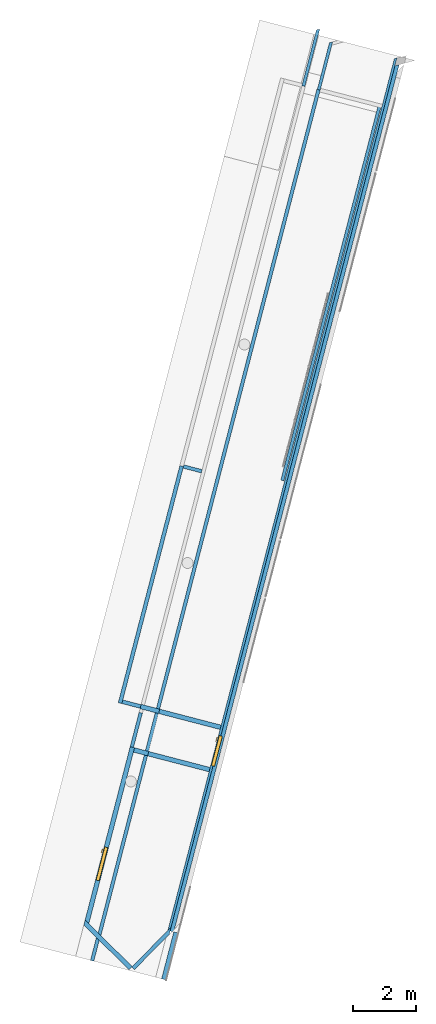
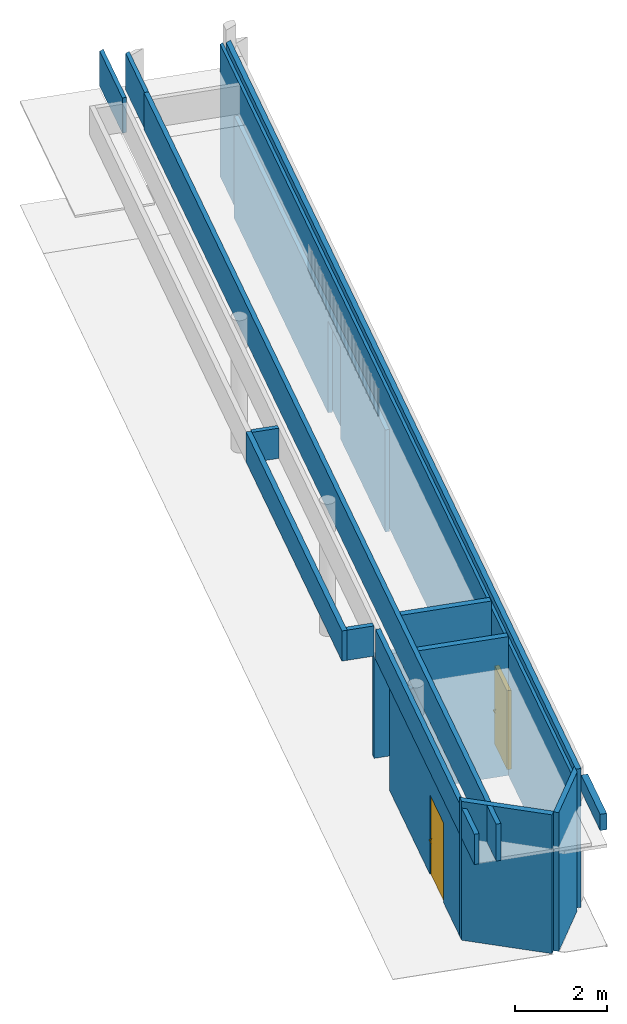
# One storey, part 1 of 9: 17 walls, 2 doors, 6 openings.
"""IFC2X3 building model written with IfcOpenShell, lengths in millimetres."""

from ifc_helpers import new_model, entity, si_unit, converted_unit, derived_unit, direction, frame, frame_2d, origin, origin_with_axes, origin_2d_with_axis, place, context, subcontext, project, spatial, polyline, rectangle, outline, extrude, faceted_brep, source, transform, mapped, material, material_list, layer, layer_set, layer_usage, type_object, element, fill, save


model = new_model("IFC2X3")

# Units and contexts
plan_context = context("Plan", 3, precision=1e-05, world=origin_with_axes())
model_context = context("Model", 3, precision=0.01, world=origin(), true_north=direction((6.12323399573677e-17, 1.0)))
body_context = subcontext(model_context, "Body", "Model", "MODEL_VIEW")
ifc_project = project(units=[converted_unit("PLANEANGLEUNIT", "DEGREE", entity("IfcPositiveLengthMeasure", 0.0174532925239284), si_unit("PLANEANGLEUNIT", "RADIAN"), dimensions=[0, 0, 0, 0, 0, 0, 0]), si_unit("AREAUNIT", "SQUARE_METRE"), si_unit("LENGTHUNIT", "METRE", prefix="MILLI"), si_unit("MASSUNIT", "GRAM", prefix="KILO"), si_unit("POWERUNIT", "WATT"), si_unit("PRESSUREUNIT", "PASCAL", prefix="KILO"), si_unit("FORCEUNIT", "NEWTON", prefix="KILO"), si_unit("ELECTRICVOLTAGEUNIT", "VOLT"), si_unit("ELECTRICCURRENTUNIT", "AMPERE"), si_unit("THERMODYNAMICTEMPERATUREUNIT", "DEGREE_CELSIUS"), si_unit("TIMEUNIT", "SECOND"), si_unit("VOLUMEUNIT", "CUBIC_METRE"), derived_unit("LINEARVELOCITYUNIT", [(si_unit("LENGTHUNIT", "METRE"), 1), (si_unit("TIMEUNIT", "SECOND"), -1)]), derived_unit("VOLUMETRICFLOWRATEUNIT", [(si_unit("VOLUMEUNIT", "CUBIC_METRE"), 1), (si_unit("TIMEUNIT", "SECOND"), -1)]), derived_unit("THERMALTRANSMITTANCEUNIT", [(si_unit("POWERUNIT", "WATT"), 1), (si_unit("THERMODYNAMICTEMPERATUREUNIT", "KELVIN"), -1), (si_unit("AREAUNIT", "SQUARE_METRE"), -1)]), derived_unit("SOUNDPRESSUREUNIT", [(si_unit("PRESSUREUNIT", "PASCAL"), 1)])], contexts=[model_context, plan_context])

# Site, building, storey
site_placement = place(None, frame((0.0, -2.21771188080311e-09, 0.0), z_axis=(0.0, 0.0, 1.0), x_axis=(0.266093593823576, -0.963947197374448, 0.0)))
site = spatial("IfcSite", under=ifc_project, at=site_placement, Name="ENZV", CompositionType="ELEMENT")
building_placement = place(site_placement, origin_with_axes())
building = spatial("IfcBuilding", under=site, at=building_placement, Name="ZV001", CompositionType="ELEMENT")
storey_placement = place(building_placement, frame((0.0, 0.0, 5100.0), z_axis=(0.0, 0.0, 1.0), x_axis=(1.0, 0.0, 0.0)))
storey = spatial("IfcBuildingStorey", under=building, at=storey_placement, Name="H01", CompositionType="ELEMENT", Elevation=5100.0)

# Wall
ifc_material_1 = material(Name="Vegg")
ifc_layer_1 = layer(ifc_material_1, 150.0)
ifc_layer_set_1 = layer_set([ifc_layer_1], Name="Basic Wall:Standard - 150mm")
wall_type_1 = type_object("IfcWallType", Name="Basic Wall:Standard - 150mm", PredefinedType="STANDARD", material=ifc_layer_set_1)
wall_1_placement = place(storey_placement, frame((-154005.015953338, 377796.146069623, 3070.0), z_axis=(0.0, 0.0, 1.0), x_axis=(-0.866025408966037, 0.499999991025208, 0.0)))
element("IfcWall", 1, at=wall_1_placement, inside=storey, type_object=wall_type_1, Name="Basic Wall:Standard - 150mm", ObjectType="Basic Wall:Standard - 150mm", context=body_context, shape_type="Brep", body=[
    faceted_brep([(551.273351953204, -75.0, 0.0), (551.273351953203, -75.0, 430.0), (2096.35044687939, -75.0, 430.0), (2096.35044687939, -75.0, 0.0), (2096.35044687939, 75.0, 430.0), (2096.35044687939, 75.0, 0.0), (551.264154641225, 75.0, 430.0), (551.267563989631, 75.0, -1.4210854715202e-14), (551.264154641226, -75.0, 430.0), (551.264154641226, -75.0, 0.0), (551.264154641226, 75.0, 0.0), (551.268753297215, 75.0, 430.0)], [[[0, 1, 2, 3]], [[2, 4, 5, 3]], [[4, 6, 7, 5]], [[7, 0, 3, 5]], [[8, 9, 10, 6]], [[11, 4, 2, 1]]], orient=[[False], [False], [False], [False], [False], [False]]),
])

# Wall, openings, door
ifc_material_2 = material(Name="Vegg - Gips")
ifc_layer_2 = layer(ifc_material_2, 120.0)
ifc_layer_set_2 = layer_set([ifc_layer_2], Name="Basic Wall:Standard - 120mm")
ifc_layer_usage_1 = layer_usage(ifc_layer_set_2, "AXIS2", "NEGATIVE", 60.0)
wall_type_2 = type_object("IfcWallType", Name="Basic Wall:Standard - 120mm", PredefinedType="STANDARD", material=ifc_layer_set_2)
wall_2_placement = place(storey_placement, frame((-155888.154383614, 378727.151842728, 0.0), z_axis=(0.0, 0.0, 1.0), x_axis=(-0.866040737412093, 0.499973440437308, 0.0)))
wall_2 = element("IfcWallStandardCase", 2, at=wall_2_placement, inside=storey, type_object=wall_type_2, material=ifc_layer_usage_1, Name="Basic Wall:Standard - 120mm", ObjectType="Basic Wall:Standard - 120mm", context=body_context, shape_type="SweptSolid", body=[
    extrude(outline(polyline([(0.0, -60.0), (28574.6319995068, -60.0), (28505.3666735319, 60.0), (0.0, 60.0), (0.0, -60.0)])), origin(), (0.0, 0.0, 1.0), 3676.0),
])
opening_1_placement = place(wall_2_placement, frame((5427.99981690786, -60.0000000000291, 0.0), z_axis=(0.0, 0.0, 1.0), x_axis=(1.0, 0.0, 0.0)))
opening_1 = element("IfcOpeningElement", 3, at=opening_1_placement, cuts=wall_2, Name="A244-Enfløyet1:Tredør  10x21M:1", ObjectType="Opening", context=body_context, shape_type="SweptSolid", body=[
    extrude(rectangle(XDim=2109.99999999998, YDim=1010.0, at=frame_2d((1054.99999999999, 505.0), x_axis=(1.0, 0.0))), frame((0.0, 0.0, 0.0), z_axis=(0.0, 1.0, 0.0), x_axis=(0.0, 0.0, 1.0)), (0.0, 0.0, 1.0), 120.0),
])
opening_2_placement = place(wall_2_placement, origin_with_axes())
element("IfcOpeningElement", 4, at=opening_2_placement, cuts=wall_2, Name="Basic Wall:Standard - 120mm", ObjectType="Opening", context=body_context, shape_type="SweptSolid", body=[
    extrude(rectangle(XDim=2100.0, YDim=1009.9999999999, at=frame_2d((5.6843418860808e-13, 1.7308821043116e-11), x_axis=(1.0, 0.0))), frame((5938.2079000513, -60.0, 1050.0), z_axis=(0.0, 1.0, 0.0), x_axis=(0.0, 0.0, -1.0)), (0.0, 0.0, 1.0), 120.000000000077),
])
opening_3_placement = place(wall_2_placement, frame((-324351.34046834, 250063.152336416, -5100.0), z_axis=(0.0, 0.0, 1.0), x_axis=(1.0, 0.0, 0.0)))
element("IfcOpeningElement", 5, at=opening_3_placement, cuts=wall_2, Name="Basic Wall:Standard - 120mm", ObjectType="Recess", context=body_context, shape_type="Brep", body=[
    faceted_brep([(324716.772731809, -250264.43994071, 7800.0), (324359.004633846, -250057.867803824, 7800.0), (324359.004633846, -250264.42897236, 7800.0), (324716.772731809, -250264.43994071, 5100.0), (324359.004633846, -250264.42897236, 5100.0), (324359.004633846, -250057.867803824, 5100.0)], [[[0, 1, 2]], [[3, 4, 5]], [[1, 0, 3, 5]], [[2, 1, 5, 4]], [[0, 2, 4, 3]]]),
])
opening_4_placement = place(wall_2_placement, frame((-324359.009270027, 250053.204989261, 0.0), z_axis=(0.0, 0.0, 1.0), x_axis=(-0.866040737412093, -0.499973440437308, 0.0)))
element("IfcOpeningElement", 6, at=opening_4_placement, cuts=wall_2, Name="Basic Wall:Standard - 120mm", ObjectType="Opening", context=body_context, shape_type="SweptSolid", body=[
    extrude(rectangle(XDim=2109.99999999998, YDim=1009.99999999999, at=frame_2d((-5.6843418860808e-13, 0.0), x_axis=(1.0, 0.0))), frame((-160234.415990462, 383065.302701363, 1055.0), z_axis=(-0.499973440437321, -0.866040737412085, 0.0), x_axis=(0.0, 0.0, 1.0)), (0.0, 0.0, 1.0), 3048.0),
])
ifc_material_3 = material(Name="Rustfritt Stål")
ifc_material_4 = material(Name="Hvit")
ifc_material_list_1 = material_list([ifc_material_3, ifc_material_4])
door_style_1 = type_object("IfcDoorStyle", Name="A244-Enfløyet1:Tredør  10x21M", ConstructionType="USERDEFINED", OperationType="SINGLE_SWING_LEFT", ParameterTakesPrecedence=False, Sizeable=False, material=ifc_material_list_1)
shared_shape_1 = source(origin(), body_context, "Body", "SweptSolid", [
    extrude(outline(polyline([(-33.3333333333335, -50.8333333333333), (24.166666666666, -50.8333333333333), (24.1666666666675, 86.6666666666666), (9.16666666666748, 86.6666666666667), (9.16666666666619, -35.8333333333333), (-33.3333333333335, -35.8333333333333), (-33.3333333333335, -50.8333333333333)])), frame((871.666666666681, 188.941039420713, 970.500000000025), z_axis=(0.0, 0.0, 1.0), x_axis=(0.0, 1.0, 0.0)), (0.0, 0.0, 1.0), 14.9999999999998),
    extrude(rectangle(XDim=5.60000000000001, YDim=50.0000000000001, at=frame_2d((0.0, -3.37507799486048e-14), x_axis=(1.0, 0.0))), frame((915.0, 152.800000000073, 840.986295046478), z_axis=(0.0, 0.0, 1.0), x_axis=(0.0, -1.0, 0.0)), (0.0, 0.0, 1.0), 159.01370495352),
    extrude(outline(polyline([(-50.8333333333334, -33.3333333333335), (-35.8333333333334, -33.3333333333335), (-35.8333333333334, 9.16666666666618), (86.6666666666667, 9.16666666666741), (86.6666666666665, 24.1666666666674), (-50.8333333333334, 24.166666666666), (-50.8333333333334, -33.3333333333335)])), frame((871.666666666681, 71.0589605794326, 970.500000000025), z_axis=(0.0, 0.0, 1.0), x_axis=(-1.0, 0.0, 0.0)), (0.0, 0.0, 1.0), 14.9999999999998),
    extrude(rectangle(XDim=49.9999999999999, YDim=5.6, at=frame_2d((0.0, -8.43769498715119e-15), x_axis=(1.0, 0.0))), frame((915.0, 107.200000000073, 840.986295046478)), (0.0, 0.0, 1.0), 159.01370495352),
    extrude(rectangle(XDim=929.999999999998, YDim=39.9999999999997, at=frame_2d((0.0, 8.88178419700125e-15), x_axis=(1.0, 0.0))), frame((505.0, 130.0, 10.0), z_axis=(0.0, 0.0, 1.0), x_axis=(-1.0, 0.0, 0.0)), (0.0, 0.0, 1.0), 2049.99999999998),
    extrude(outline(polyline([(465.0, -1037.49999999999), (495.0, -1037.49999999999), (495.0, 1052.49999999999), (-495.0, 1052.49999999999), (-495.0, -1037.49999999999), (-465.0, -1037.49999999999), (-465.0, 1022.49999999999), (465.0, 1022.49999999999), (465.0, -1037.49999999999)])), frame((505.0, 150.0, 1037.49999999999), z_axis=(0.0, -1.0, 0.0), x_axis=(1.0, 0.0, 0.0)), (0.0, 0.0, 1.0), 99.9999999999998),
])
door_1_placement = place(opening_1_placement, frame((0.00122417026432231, 20.1664662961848, 0.0), z_axis=(0.0, 0.0, 1.0), x_axis=(1.0, 0.0, 0.0)))
door_1 = element("IfcDoor", 7, at=door_1_placement, inside=storey, type_object=door_style_1, material=ifc_material_list_1, Name="A244-Enfløyet1:Tredør  10x21M", ObjectType="A244-Enfløyet1:Tredør  10x21M", OverallHeight=2109.99999999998, OverallWidth=1009.99999999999, context=body_context, shape_type="MappedRepresentation", body=[
    mapped(shared_shape_1, transform((0.0, 0.0, 0.0), scale=1.0)),
])
fill(opening_1, door_1)

# Wall, opening
ifc_layer_3 = layer(ifc_material_4, 100.0)
ifc_layer_set_3 = layer_set([ifc_layer_3], Name="Basic Wall:Standard - 100mm hvit")
ifc_layer_usage_2 = layer_usage(ifc_layer_set_3, "AXIS2", "NEGATIVE", 50.0)
wall_type_3 = type_object("IfcWallType", Name="Basic Wall:Standard - 100mm hvit", PredefinedType="STANDARD", material=ifc_layer_set_3)
wall_3_placement = place(storey_placement, frame((-179486.396005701, 392107.925192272, 0.0), z_axis=(0.0, 0.0, 1.0), x_axis=(0.866040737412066, -0.499973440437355, 0.0)))
wall_3 = element("IfcWallStandardCase", 8, at=wall_3_placement, inside=storey, type_object=wall_type_3, material=ifc_layer_usage_2, Name="Basic Wall:Standard - 100mm hvit", ObjectType="Basic Wall:Standard - 100mm hvit", context=body_context, shape_type="SweptSolid", body=[
    extrude(rectangle(XDim=12319.0041694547, YDim=100.000000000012, at=frame_2d((6159.50208472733, 4.15667500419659e-13), x_axis=(1.0, 0.0))), origin(), (0.0, 0.0, 1.0), 2700.0),
])
opening_5_placement = place(wall_3_placement, origin_with_axes())
element("IfcOpeningElement", 9, at=opening_5_placement, cuts=wall_3, Name="Basic Wall:Standard - 100mm hvit", ObjectType="Opening", context=body_context, shape_type="SweptSolid", body=[
    extrude(rectangle(XDim=2438.4, YDim=1019.99999999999, at=origin_2d_with_axis()), frame((8155.0, -50.0, 1219.2), z_axis=(0.0, 1.0, 0.0), x_axis=(0.0, 0.0, -1.0)), (0.0, 0.0, 1.0), 100.000000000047),
])

# Walls
ifc_material_5 = material(Name="A246.Gips 12.5mm fiberarmert -QK5.31112")
ifc_layer_4 = layer(ifc_material_5, 13.0)
ifc_material_6 = material(Name="OSB plate")
ifc_layer_5 = layer(ifc_material_6, 12.0)
ifc_material_7 = material(Name="A242.Stender Lettmetall 95mm -PJ3.111002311")
ifc_layer_6 = layer(ifc_material_7, 70.0)
ifc_layer_7 = layer(ifc_material_6, 12.0)
ifc_layer_8 = layer(ifc_material_5, 13.0)
ifc_layer_set_4 = layer_set([ifc_layer_4, ifc_layer_5, ifc_layer_6, ifc_layer_7, ifc_layer_8], Name="Basic Wall:ENZV_IV-UK01_S70_120mm_OSBG")
ifc_layer_usage_3 = layer_usage(ifc_layer_set_4, "AXIS2", "NEGATIVE", 60.0)
wall_type_4 = type_object("IfcWallType", Name="Basic Wall:ENZV_IV-UK01_S70_120mm_OSBG", PredefinedType="STANDARD", material=ifc_layer_set_4)
wall_4_placement = place(storey_placement, frame((-155081.444910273, 377217.970790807, 0.0), z_axis=(0.0, 0.0, 1.0), x_axis=(-0.500000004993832, 0.866025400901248, 0.0)))
element("IfcWallStandardCase", 10, at=wall_4_placement, inside=storey, type_object=wall_type_4, material=ifc_layer_usage_3, Name="Basic Wall:ENZV_IV-UK01_S70_120mm_OSBG", ObjectType="Basic Wall:ENZV_IV-UK01_S70_120mm_OSBG", context=body_context, shape_type="SweptSolid", body=[
    extrude(outline(polyline([(1583.35262287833, -60.0), (1680.34227297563, -3.99903410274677), (1791.18400266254, 60.0), (25.0000005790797, 60.0), (5.79060473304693e-07, 60.0), (0.0, -60.0), (1583.35262287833, -60.0)])), origin(), (0.0, 0.0, 1.0), 3675.0),
])
ifc_layer_9 = layer(ifc_material_5, 13.0)
ifc_layer_10 = layer(ifc_material_6, 12.0)
ifc_layer_11 = layer(ifc_material_7, 95.0)
ifc_layer_12 = layer(ifc_material_6, 12.0)
ifc_layer_13 = layer(ifc_material_5, 13.0)
ifc_layer_set_5 = layer_set([ifc_layer_9, ifc_layer_10, ifc_layer_11, ifc_layer_12, ifc_layer_13], Name="Basic Wall:ENZV_IV-UK02_S95_145mm_OSBG")
ifc_layer_usage_4 = layer_usage(ifc_layer_set_5, "AXIS2", "NEGATIVE", 72.5)
wall_type_5 = type_object("IfcWallType", Name="Basic Wall:ENZV_IV-UK02_S95_145mm_OSBG", PredefinedType="STANDARD", material=ifc_layer_set_5)
wall_5_placement = place(storey_placement, frame((-155109.656434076, 377146.834584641, 0.0), z_axis=(0.0, 0.0, 1.0), x_axis=(-0.866025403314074, -0.500000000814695, 0.0)))
element("IfcWallStandardCase", 11, at=wall_5_placement, inside=storey, type_object=wall_type_5, material=ifc_layer_usage_4, Name="Basic Wall:ENZV_IV-UK02_S95_145mm_OSBG", ObjectType="Basic Wall:ENZV_IV-UK02_S95_145mm_OSBG", context=body_context, shape_type="SweptSolid", body=[
    extrude(outline(polyline([(2111.90550825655, -72.500000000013), (2028.18971940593, 72.5000000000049), (0.0, 72.5000000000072), (5.79106753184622e-07, -47.4999999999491), (6.99748836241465e-07, -72.4999999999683), (1944.47393028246, -72.4999999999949), (2111.90550825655, -72.500000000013)])), origin(), (0.0, 0.0, 1.0), 3676.00000000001),
])

# Wall, opening, door
ifc_layer_usage_5 = layer_usage(ifc_layer_set_5, "AXIS2", "NEGATIVE", 72.5)
wall_6_placement = place(storey_placement, frame((-156866.120253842, 376174.597617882, 0.0), z_axis=(0.0, 0.0, 1.0), x_axis=(-0.866025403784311, 0.500000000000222, 0.0)))
wall_6 = element("IfcWallStandardCase", 12, at=wall_6_placement, inside=storey, type_object=wall_type_5, material=ifc_layer_usage_5, Name="Basic Wall:ENZV_IV-UK02_S95_145mm_OSBG", ObjectType="Basic Wall:ENZV_IV-UK02_S95_145mm_OSBG", context=body_context, shape_type="SweptSolid", body=[
    extrude(outline(polyline([(0.0, -72.5000000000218), (5653.85661246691, -72.500000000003), (5798.85661287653, -72.5000000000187), (5798.86751215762, 72.4999999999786), (83.7157888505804, 72.4999999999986), (0.0, -72.5000000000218)])), origin(), (0.0, 0.0, 1.0), 2700.0),
])
opening_6_placement = place(wall_6_placement, frame((1398.83175217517, -72.5000000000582, 0.0), z_axis=(0.0, 0.0, 1.0), x_axis=(1.0, 0.0, 0.0)))
opening_6 = element("IfcOpeningElement", 13, at=opening_6_placement, cuts=wall_6, Name="A244-Enfløyet1:DT03B_Tredør 11x21M:1", ObjectType="Opening", context=body_context, shape_type="SweptSolid", body=[
    extrude(rectangle(XDim=2109.99999999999, YDim=1109.99999999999, at=frame_2d((1054.99999999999, 554.999999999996), x_axis=(1.0, 0.0))), frame((0.0, 0.0, 0.0), z_axis=(0.0, 1.0, 0.0), x_axis=(0.0, 0.0, 1.0)), (0.0, 0.0, 1.0), 145.0),
])
ifc_material_8 = material(Name="Høytrykkslaminat")
ifc_material_9 = material(Name="Tre")
ifc_material_list_2 = material_list([ifc_material_3, ifc_material_8, ifc_material_9])
door_style_2 = type_object("IfcDoorStyle", Name="A244-Enfløyet1:DT03B_Tredør 11x21M", ConstructionType="USERDEFINED", OperationType="SINGLE_SWING_LEFT", ParameterTakesPrecedence=False, Sizeable=False, material=ifc_material_list_2)
shared_shape_2 = source(origin(), body_context, "Body", "SweptSolid", [
    extrude(outline(polyline([(-33.3333333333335, -50.8333333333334), (24.166666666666, -50.8333333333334), (24.1666666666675, 86.6666666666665), (9.16666666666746, 86.6666666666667), (9.16666666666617, -35.8333333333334), (-33.3333333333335, -35.8333333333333), (-33.3333333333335, -50.8333333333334)])), frame((971.666666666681, 143.941039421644, 970.500000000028), z_axis=(0.0, 0.0, 1.0), x_axis=(0.0, 1.0, 0.0)), (0.0, 0.0, 1.0), 14.9999999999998),
    extrude(rectangle(XDim=5.6, YDim=50.0000000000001, at=frame_2d((4.2188474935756e-15, 3.37507799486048e-14), x_axis=(1.0, 0.0))), frame((1015.0, 107.800000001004, 840.98629504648), z_axis=(0.0, 0.0, 1.0), x_axis=(0.0, -1.0, 0.0)), (0.0, 0.0, 1.0), 159.01370495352),
    extrude(outline(polyline([(-50.8333333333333, -33.3333333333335), (-35.8333333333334, -33.3333333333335), (-35.8333333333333, 9.16666666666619), (86.6666666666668, 9.16666666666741), (86.6666666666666, 24.1666666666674), (-50.8333333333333, 24.166666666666), (-50.8333333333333, -33.3333333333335)])), frame((971.666666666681, 26.0589605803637, 970.500000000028), z_axis=(0.0, 0.0, 1.0), x_axis=(-1.0, 0.0, 0.0)), (0.0, 0.0, 1.0), 14.9999999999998),
    extrude(rectangle(XDim=49.9999999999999, YDim=5.6, at=origin_2d_with_axis()), frame((1015.0, 62.2000000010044, 840.986295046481)), (0.0, 0.0, 1.0), 159.01370495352),
    extrude(rectangle(XDim=1030.0, YDim=39.9999999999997, at=frame_2d((0.0, -3.5527136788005e-15), x_axis=(1.0, 0.0))), frame((555.0, 85.0000000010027, 10.0), z_axis=(0.0, 0.0, 1.0), x_axis=(-1.0, 0.0, 0.0)), (0.0, 0.0, 1.0), 2049.99999999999),
    extrude(outline(polyline([(515.0, -1037.49999999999), (545.0, -1037.49999999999), (545.0, 1052.49999999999), (-545.0, 1052.49999999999), (-545.0, -1037.49999999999), (-515.0, -1037.49999999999), (-515.0, 1022.49999999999), (515.0, 1022.49999999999), (515.0, -1037.49999999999)])), frame((555.0, 105.000000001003, 1037.49999999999), z_axis=(0.0, -1.0, 0.0), x_axis=(1.0, 0.0, 0.0)), (0.0, 0.0, 1.0), 99.9999999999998),
])
door_2_placement = place(opening_6_placement, frame((0.0, 19.9999999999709, 0.0), z_axis=(0.0, 0.0, 1.0), x_axis=(1.0, 0.0, 0.0)))
door_2 = element("IfcDoor", 14, at=door_2_placement, inside=storey, type_object=door_style_2, material=ifc_material_list_2, Name="A244-Enfløyet1:DT03B_Tredør 11x21M", ObjectType="A244-Enfløyet1:DT03B_Tredør 11x21M", OverallHeight=2109.99999999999, OverallWidth=1110.0, context=body_context, shape_type="MappedRepresentation", body=[
    mapped(shared_shape_2, transform((0.0, 0.0, 0.0), scale=1.0)),
])
fill(opening_6, door_2)

# Walls
wall_7_placement = place(storey_placement, frame((-161789.043276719, 379100.558046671, 0.0), z_axis=(0.0, 0.0, 1.0), x_axis=(0.50006509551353, 0.865987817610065, 0.0)))
element("IfcWall", 15, at=wall_7_placement, inside=storey, type_object=wall_type_5, Name="Basic Wall:ENZV_IV-UK02_S95_145mm_OSBG", ObjectType="Basic Wall:ENZV_IV-UK02_S95_145mm_OSBG", context=body_context, shape_type="Brep", body=[
    faceted_brep([(0.0108992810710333, -72.4999999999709, 0.0), (2491.86025786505, -72.5, 0.0), (2491.86025786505, -72.5, 3676.0), (466.658082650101, -72.4999999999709, 3676.0), (466.658082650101, -72.4999999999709, 2700.0), (356.658060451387, -72.4999999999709, 2700.0), (0.0108992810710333, -72.4999999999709, 2700.0), (2491.84491171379, 72.5000000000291, 0.0), (0.0, 72.5, 0.0), (0.0, 72.5, 2700.0), (356.565941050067, 72.5, 2700.0), (466.565963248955, 72.5, 2700.0), (466.565963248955, 72.5, 3676.0), (2491.84491171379, 72.5000000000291, 3676.0)], [[[0, 1, 2, 3, 4, 5, 6]], [[7, 8, 9, 10, 11, 12, 13]], [[2, 1, 7, 13]], [[0, 6, 9, 8]], [[1, 0, 8, 7]], [[3, 2, 13, 12]], [[9, 6, 5, 4, 11, 10]], [[4, 3, 12, 11]]]),
])
wall_8_placement = place(storey_placement, frame((-163069.648195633, 379672.507066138, 0.0), z_axis=(0.0, 0.0, 1.0), x_axis=(0.500065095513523, 0.865987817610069, 0.0)))
element("IfcWall", 16, at=wall_8_placement, inside=storey, type_object=wall_type_5, Name="Basic Wall:ENZV_IV-UK02_S95_145mm_OSBG", ObjectType="Basic Wall:ENZV_IV-UK02_S95_145mm_OSBG", context=body_context, shape_type="Brep", body=[
    faceted_brep([(0.0, -72.5000000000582, 0.0), (2636.79755524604, -72.5000000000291, 0.0), (2636.79755524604, -72.5000000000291, 3676.0), (610.856768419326, -72.5000000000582, 3676.0), (610.856768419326, -72.5000000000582, 2700.0), (500.856746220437, -72.5000000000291, 2700.0), (0.0, -72.5000000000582, 2700.0), (2636.78220909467, 72.4999999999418, 0.0), (0.0, 72.4999999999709, 0.0), (0.0, 72.4999999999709, 2700.0), (500.764626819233, 72.4999999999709, 2700.0), (610.764649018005, 72.4999999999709, 2700.0), (610.764649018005, 72.4999999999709, 3676.0), (2636.78220909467, 72.4999999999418, 3676.0)], [[[0, 1, 2, 3, 4, 5, 6]], [[7, 8, 9, 10, 11, 12, 13]], [[2, 1, 7, 13]], [[1, 0, 8, 7]], [[3, 2, 13, 12]], [[0, 6, 9, 8]], [[9, 6, 5, 4, 11, 10]], [[4, 3, 12, 11]]]),
])
ifc_layer_14 = layer(ifc_material_5, 12.0)
ifc_material_10 = material(Name="Stender/Isolasjon")
ifc_layer_15 = layer(ifc_material_10, 98.0)
ifc_layer_set_6 = layer_set([ifc_layer_14, ifc_layer_15], Name="Basic Wall:Skjørt mellombygg")
ifc_layer_usage_6 = layer_usage(ifc_layer_set_6, "AXIS2", "NEGATIVE", 55.0)
wall_type_6 = type_object("IfcWallType", Name="Basic Wall:Skjørt mellombygg", PredefinedType="STANDARD", material=ifc_layer_set_6)
wall_9_placement = place(storey_placement, frame((-180521.794927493, 390377.066125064, 2700.0), z_axis=(0.0, 0.0, 1.0), x_axis=(0.866305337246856, -0.499514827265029, 0.0)))
element("IfcWallStandardCase", 17, at=wall_9_placement, inside=storey, type_object=wall_type_6, material=ifc_layer_usage_6, Name="Basic Wall:Skjørt mellombygg", ObjectType="Basic Wall:Skjørt mellombygg", context=body_context, shape_type="SweptSolid", body=[
    extrude(outline(polyline([(27795.4289819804, -55.0), (27859.0196917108, 55.0), (21933.8621774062, 55.0), (21788.8621481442, 55.0), (20538.8618958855, 55.0), (20393.8618666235, 55.0), (60.0, 55.0), (0.0, 55.0), (0.0, -40.0376622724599), (0.0, -55.0), (27795.4289819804, -55.0)])), origin(), (0.0, 0.0, 1.0), 976.000000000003),
])
wall_10_placement = place(storey_placement, frame((-129429.686220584, 360313.957931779, 2700.0), z_axis=(0.0, 0.0, 1.0), x_axis=(-0.86602522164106, 0.500000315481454, 0.0)))
element("IfcWall", 18, at=wall_10_placement, inside=storey, type_object=wall_type_6, Name="Basic Wall:Skjørt mellombygg", ObjectType="Basic Wall:Skjørt mellombygg", context=body_context, shape_type="Brep", body=[
    faceted_brep([(38619.813557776, -55.000000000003, 800.0), (38619.813557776, 55.0000000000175, 800.0), (38619.813557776, 55.0000000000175, 0.0), (38619.813557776, -55.000000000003, 0.0), (30575.1311390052, 55.0000000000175, 800.0), (30575.1311390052, 55.0000000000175, 0.0), (30575.1311390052, -55.000000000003, 0.0), (30575.1311390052, -55.0000000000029, 800.0), (30575.1357938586, 55.0000000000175, 800.0), (30575.1392074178, -55.0000000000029, 800.0)], [[[0, 1, 2, 3]], [[1, 4, 5, 2]], [[6, 7, 0, 3]], [[5, 6, 3, 2]], [[7, 6, 5, 4]], [[8, 1, 0, 9]]], orient=[[False], [False], [False], [False], [False], [False]]),
])
wall_11_placement = place(storey_placement, frame((-156312.750210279, 376400.266523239, 2700.0), z_axis=(0.0, 0.0, 1.0), x_axis=(0.866025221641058, -0.500000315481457, 0.0)))
element("IfcWall", 19, at=wall_11_placement, inside=storey, type_object=wall_type_6, Name="Basic Wall:Skjørt mellombygg", ObjectType="Basic Wall:Skjørt mellombygg", context=body_context, shape_type="Brep", body=[
    faceted_brep([(749.419833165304, -55.0, 976.000000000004), (749.419833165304, -55.0, 0.0), (0.0, -55.0, 0.0), (0.0, -55.0, 976.000000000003), (749.416419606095, 55.0, 0.0), (749.416419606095, 55.0, 976.000000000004), (63.508476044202, 55.0, 976.000000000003), (63.508476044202, 55.0, 0.0), (749.424488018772, 55.0, 976.000000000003), (749.424488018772, 55.0, 0.0), (749.424488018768, -55.0, 0.0), (749.424488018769, -55.0, 976.000000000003)], [[[0, 1, 2, 3]], [[4, 5, 6, 7]], [[7, 6, 3, 2]], [[1, 4, 7, 2]], [[5, 0, 3, 6]], [[8, 9, 10, 11]]], orient=[[False], [False], [False], [False], [False], [False]]),
])
wall_12_placement = place(storey_placement, frame((-170084.044521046, 383028.267614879, 2700.0), z_axis=(0.0, 0.0, 1.0), x_axis=(0.500065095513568, 0.865987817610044, 0.0)))
element("IfcWall", 20, at=wall_12_placement, inside=storey, type_object=wall_type_6, Name="Basic Wall:Skjørt mellombygg", ObjectType="Basic Wall:Skjørt mellombygg", context=body_context, shape_type="Brep", body=[
    faceted_brep([(0.0080903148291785, -55.0, 800.0), (601.01677672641, -55.0, 800.0), (601.01677672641, -55.0, 0.0), (0.0080903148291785, -55.0, 0.0), (601.008548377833, 55.0, 800.0), (601.008548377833, 55.0, 0.0), (0.0, 55.0, 800.0), (0.0, 55.0, 0.0)], [[[0, 1, 2, 3]], [[1, 4, 5, 2]], [[4, 6, 7, 5]], [[6, 0, 3, 7]], [[3, 2, 5, 7]], [[6, 4, 1, 0]]], orient=[[False], [False], [False], [False], [False], [False]]),
])
ifc_layer_16 = layer(ifc_material_5, 13.0)
ifc_layer_17 = layer(ifc_material_6, 12.0)
ifc_layer_18 = layer(ifc_material_7, 70.0)
ifc_layer_set_7 = layer_set([ifc_layer_16, ifc_layer_17, ifc_layer_18], Name="Basic Wall:ENZV_S-UK01_S70_95mm_OSBG ensidig")
ifc_layer_usage_7 = layer_usage(ifc_layer_set_7, "AXIS2", "NEGATIVE", 47.5)
wall_type_7 = type_object("IfcWallType", Name="Basic Wall:ENZV_S-UK01_S70_95mm_OSBG ensidig", PredefinedType="STANDARD", material=ifc_layer_set_7)
wall_13_placement = place(storey_placement, frame((-181896.988392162, 391178.621689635, 2700.0), z_axis=(0.0, 0.0, 1.0), x_axis=(0.866305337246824, -0.499514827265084, 0.0)))
element("IfcWallStandardCase", 21, at=wall_13_placement, inside=storey, type_object=wall_type_7, material=ifc_layer_usage_7, Name="Basic Wall:ENZV_S-UK01_S70_95mm_OSBG ensidig", ObjectType="Basic Wall:ENZV_S-UK01_S70_95mm_OSBG ensidig", context=body_context, shape_type="SweptSolid", body=[
    extrude(outline(polyline([(1591.72632756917, -47.4999999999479), (1591.72632756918, 47.5000000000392), (109.661104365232, 47.5000000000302), (0.0, 47.5000000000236), (54.7773476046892, -47.4999999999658), (1591.72632756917, -47.4999999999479)])), origin(), (0.0, 0.0, 1.0), 976.000000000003),
])
ifc_layer_usage_8 = layer_usage(ifc_layer_set_7, "AXIS2", "NEGATIVE", 47.5)
wall_14_placement = place(storey_placement, frame((-180761.693323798, 389941.926867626, 2700.0), z_axis=(0.0, 0.0, 1.0), x_axis=(-0.866024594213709, 0.500001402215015, 0.0)))
element("IfcWallStandardCase", 22, at=wall_14_placement, inside=storey, type_object=wall_type_7, material=ifc_layer_usage_8, Name="Basic Wall:ENZV_S-UK01_S70_95mm_OSBG ensidig", ObjectType="Basic Wall:ENZV_S-UK01_S70_95mm_OSBG ensidig", context=body_context, shape_type="SweptSolid", body=[
    extrude(outline(polyline([(-431.066872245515, -670.62714550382), (-321.370218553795, -670.62714550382), (598.247004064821, 922.190651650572), (515.974667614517, 969.690784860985), (-361.784580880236, -550.627145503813), (-431.066872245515, -670.62714550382)])), frame((1097.76412578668, -9.50000000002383, 0.0), z_axis=(0.0, 0.0, 1.0), x_axis=(-0.500001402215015, 0.866024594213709, 0.0)), (0.0, 0.0, 1.0), 930.000000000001),
])
ifc_layer_19 = layer(ifc_material_5, 13.0)
ifc_layer_20 = layer(ifc_material_6, 12.0)
ifc_layer_21 = layer(ifc_material_7, 70.0)
ifc_layer_22 = layer(ifc_material_6, 12.0)
ifc_layer_23 = layer(ifc_material_5, 13.0)
ifc_layer_set_8 = layer_set([ifc_layer_19, ifc_layer_20, ifc_layer_21, ifc_layer_22, ifc_layer_23], Name="Basic Wall:ENZV_S-UK01B_S70_120mm_OSBG tosidig")
wall_type_8 = type_object("IfcWallType", Name="Basic Wall:ENZV_S-UK01B_S70_120mm_OSBG tosidig", PredefinedType="STANDARD", material=ifc_layer_set_8)
wall_15_placement = place(storey_placement, frame((-170114.046404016, 382976.311848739, 2700.0), z_axis=(0.0, 0.0, 1.0), x_axis=(0.866024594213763, -0.500001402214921, 0.0)))
element("IfcWall", 23, at=wall_15_placement, inside=storey, type_object=wall_type_8, Name="Basic Wall:ENZV_S-UK01B_S70_120mm_OSBG tosidig", ObjectType="Basic Wall:ENZV_S-UK01B_S70_120mm_OSBG tosidig", context=body_context, shape_type="Brep", body=[
    faceted_brep([(7812.0524036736, -59.999999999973, 800.0), (7812.0524036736, 59.9999999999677, 800.0), (7812.0524036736, 59.9999999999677, 0.0), (7812.0524036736, -59.999999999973, 0.0), (0.0, 59.9999999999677, 800.0), (0.0, 59.9999999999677, 0.0), (0.0, -59.999999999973, 800.0), (0.0, -59.999999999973, 0.0)], [[[0, 1, 2, 3]], [[1, 4, 5, 2]], [[4, 6, 7, 5]], [[6, 0, 3, 7]], [[3, 2, 5, 7]], [[6, 4, 1, 0]]], orient=[[False], [False], [False], [False], [False], [False]]),
])
wall_16_placement = place(storey_placement, frame((-163070.087498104, 379672.746171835, 2700.0), z_axis=(0.0, 0.0, 1.0), x_axis=(-0.499973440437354, -0.866040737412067, 0.0)))
element("IfcWall", 24, at=wall_16_placement, inside=storey, type_object=wall_type_8, Name="Basic Wall:ENZV_S-UK01B_S70_120mm_OSBG tosidig", ObjectType="Basic Wall:ENZV_S-UK01B_S70_120mm_OSBG tosidig", context=body_context, shape_type="Brep", body=[
    faceted_brep([(601.022142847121, -59.9999999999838, 800.0), (601.022142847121, 60.0000000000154, 800.0), (601.022142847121, 60.0000000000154, 0.0), (601.022142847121, -59.9999999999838, 0.0), (0.0, 60.0000000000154, 800.0), (0.0, 60.0000000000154, 0.0), (0.0, -59.9999999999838, 800.0), (0.0, -59.9999999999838, 0.0)], [[[0, 1, 2, 3]], [[1, 4, 5, 2]], [[4, 6, 7, 5]], [[6, 0, 3, 7]], [[3, 2, 5, 7]], [[6, 4, 1, 0]]], orient=[[False], [False], [False], [False], [False], [False]]),
])
ifc_layer_24 = layer(ifc_material_5, 13.0)
ifc_layer_25 = layer(ifc_material_6, 12.0)
ifc_layer_26 = layer(ifc_material_7, 50.0)
ifc_layer_set_9 = layer_set([ifc_layer_24, ifc_layer_25, ifc_layer_26], Name="Basic Wall:Påforingsvegg mellombygget")
wall_type_9 = type_object("IfcWallType", Name="Basic Wall:Påforingsvegg mellombygget", PredefinedType="STANDARD", material=ifc_layer_set_9)
wall_17_placement = place(storey_placement, frame((-155935.266273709, 378641.710743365, 0.0), z_axis=(0.0, 0.0, 1.0), x_axis=(-0.866040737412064, 0.499973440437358, 0.0)))
element("IfcWall", 25, at=wall_17_placement, inside=storey, type_object=wall_type_9, Name="Basic Wall:Påforingsvegg mellombygget", ObjectType="Basic Wall:Påforingsvegg mellombygget", context=body_context, shape_type="Brep", body=[
    faceted_brep([(0.0, -37.4999999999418, 3500.0), (28770.8685026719, -37.4999999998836, 3500.0), (28770.8685026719, -37.4999999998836, 0.0), (6440.12536572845, -37.4999999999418, 0.0), (6440.12536572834, -37.4999999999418, 2100.0), (5430.12536572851, -37.4999999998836, 2100.0), (5430.12536572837, -37.4999999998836, 0.0), (0.0, -37.4999999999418, 0.0), (28727.5702992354, 37.5000000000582, 3500.0), (0.0, 37.5000000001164, 3500.0), (0.0, 37.5000000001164, 0.0), (5430.12536572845, 37.5000000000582, 0.0), (5430.12536572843, 37.5000000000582, 2100.0), (6440.12536572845, 37.5000000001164, 2100.0), (6440.12536572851, 37.5000000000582, 0.0), (28727.5702992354, 37.5000000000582, 0.0), (5371.257091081, 37.5000000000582, 0.0), (5226.25709026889, 37.5000000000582, 0.0), (6766.25709889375, 37.5000000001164, 0.0), (6621.25709808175, 37.5000000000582, 0.0), (28507.2551812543, -37.4999999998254, 0.0), (28761.2739869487, -37.4999999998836, 0.0)], [[[0, 1, 2, 3, 4, 5, 6, 7]], [[8, 9, 10, 11, 12, 13, 14, 15]], [[6, 11, 16, 17, 10, 7]], [[9, 0, 7, 10]], [[4, 13, 12, 5]], [[11, 6, 5, 12]], [[3, 14, 13, 4]], [[1, 8, 15, 2]], [[18, 19, 14, 3, 20, 21, 2, 15]], [[9, 8, 1, 0]]], orient=[[False], [False], [False], [False], [False], [False], [False], [False], [False], [False]]),
])

save(model, "model.ifc")
